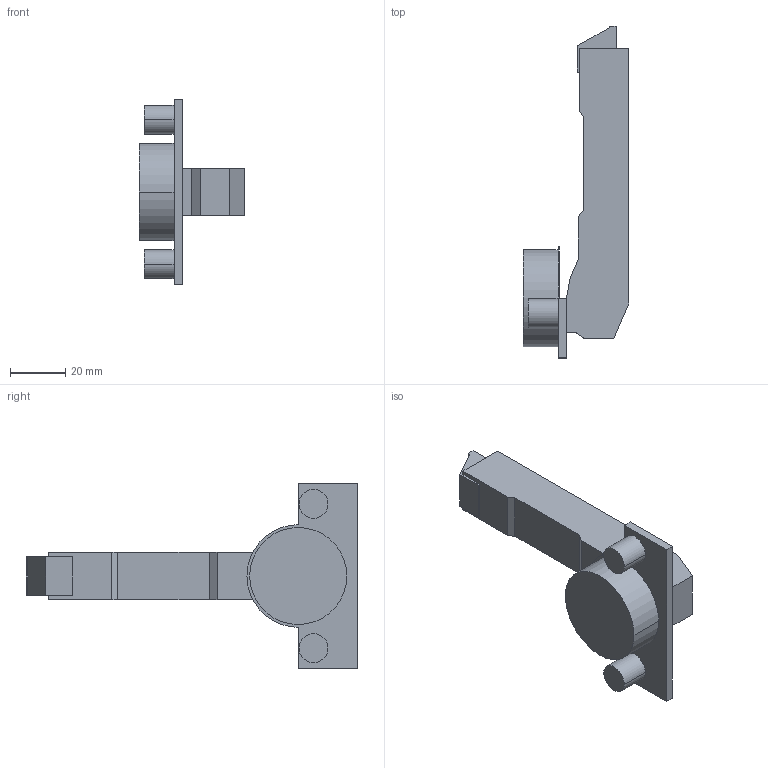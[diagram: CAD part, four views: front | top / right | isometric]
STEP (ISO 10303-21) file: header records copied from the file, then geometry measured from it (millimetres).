
FILE_DESCRIPTION (( 'STEP AP214' ), '1' );
FILE_NAME ('Scharnier T Click-on 110° +90° H_BB, einliegend_Dübel.step', '2010-12-13T10:22:54', ( 'grass' ), ( '' ), 'SwSTEP 2.0', 'SolidWorks 2010', '' );
FILE_SCHEMA (( 'AUTOMOTIVE_DESIGN' ));
Length unit declared in the file: millimetre
Products named in the file (1): Scharnier T Click-on 110° +90° H_BB, einliegend_Dübel
Bounding box: 38.15 x 119.6 x 67 mm (x, y, z)
Volume: 51273.7 mm3; surface area: 14580 mm2
Topology: 1 solids, 1 shells, 58 faces, 142 edges, 94 vertices
Faces by surface type: plane 40, cylinder 18
Entity records: 1740 total; most frequent: DIRECTION 296, CARTESIAN_POINT 295, ORIENTED_EDGE 284, EDGE_CURVE 142, VECTOR 106, LINE 106, AXIS2_PLACEMENT_3D 95, VERTEX_POINT 94
